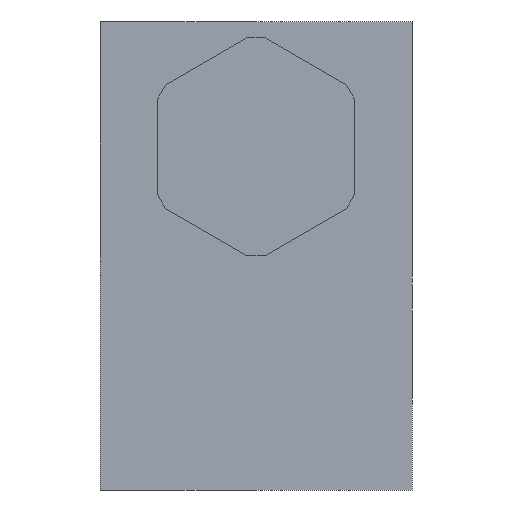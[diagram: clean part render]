
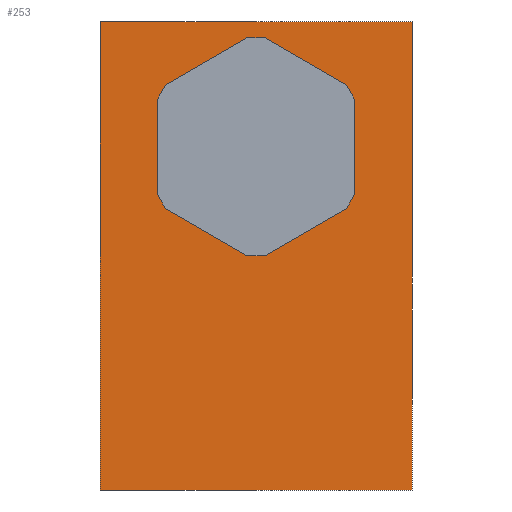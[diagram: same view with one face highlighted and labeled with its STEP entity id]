
A CAD part, left-side view. The second image highlights one B-rep face of the part: STEP entity #253.
In plain terms, the highlighted planar face has unit normal (-1, 0, 0).
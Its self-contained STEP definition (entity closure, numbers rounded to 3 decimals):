
#159=FACE_BOUND('',#406,.T.);
#160=FACE_BOUND('',#407,.T.);
#214=CIRCLE('',#1101,6.575);
#253=ADVANCED_FACE('',(#159,#160),#319,.T.);
#319=PLANE('',#1102);
#406=EDGE_LOOP('',(#509));
#407=EDGE_LOOP('',(#510,#511,#512,#513));
#509=ORIENTED_EDGE('',*,*,#853,.T.);
#510=ORIENTED_EDGE('',*,*,#851,.T.);
#511=ORIENTED_EDGE('',*,*,#844,.T.);
#512=ORIENTED_EDGE('',*,*,#854,.F.);
#513=ORIENTED_EDGE('',*,*,#855,.T.);
#749=VERTEX_POINT('',#1476);
#751=VERTEX_POINT('',#1480);
#758=VERTEX_POINT('',#1496);
#759=VERTEX_POINT('',#1500);
#760=VERTEX_POINT('',#1502);
#844=EDGE_CURVE('',#749,#751,#970,.T.);
#851=EDGE_CURVE('',#758,#749,#972,.T.);
#853=EDGE_CURVE('',#759,#759,#214,.T.);
#854=EDGE_CURVE('',#760,#751,#974,.T.);
#855=EDGE_CURVE('',#760,#758,#975,.T.);
#970=LINE('',#1481,#1033);
#972=LINE('',#1495,#1035);
#974=LINE('',#1501,#1037);
#975=LINE('',#1503,#1038);
#1033=VECTOR('',#1203,1.);
#1035=VECTOR('',#1217,1.);
#1037=VECTOR('',#1223,1.);
#1038=VECTOR('',#1224,1.);
#1101=AXIS2_PLACEMENT_3D('',#1499,#1221,#1222);
#1102=AXIS2_PLACEMENT_3D('',#1504,#1225,#1226);
#1203=DIRECTION('',(0.,1.,0.));
#1217=DIRECTION('',(0.,0.,1.));
#1221=DIRECTION('',(1.,0.,0.));
#1222=DIRECTION('',(0.,0.,-1.));
#1223=DIRECTION('',(0.,0.,1.));
#1224=DIRECTION('',(0.,-1.,0.));
#1225=DIRECTION('',(-1.,0.,0.));
#1226=DIRECTION('',(0.,0.,-1.));
#1476=CARTESIAN_POINT('',(-167.258,29.202,45.));
#1480=CARTESIAN_POINT('',(-167.258,59.202,45.));
#1481=CARTESIAN_POINT('',(-167.258,44.202,45.));
#1495=CARTESIAN_POINT('',(-167.258,29.202,0.));
#1496=CARTESIAN_POINT('',(-167.258,29.202,0.));
#1499=CARTESIAN_POINT('',(-167.258,44.202,33.));
#1500=CARTESIAN_POINT('',(-167.258,44.202,26.425));
#1501=CARTESIAN_POINT('',(-167.258,59.202,0.));
#1502=CARTESIAN_POINT('',(-167.258,59.202,0.));
#1503=CARTESIAN_POINT('',(-167.258,44.202,0.));
#1504=CARTESIAN_POINT('',(-167.258,44.202,0.));
